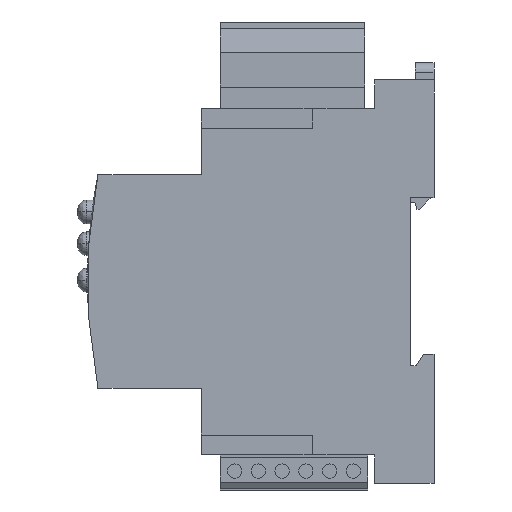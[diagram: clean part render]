
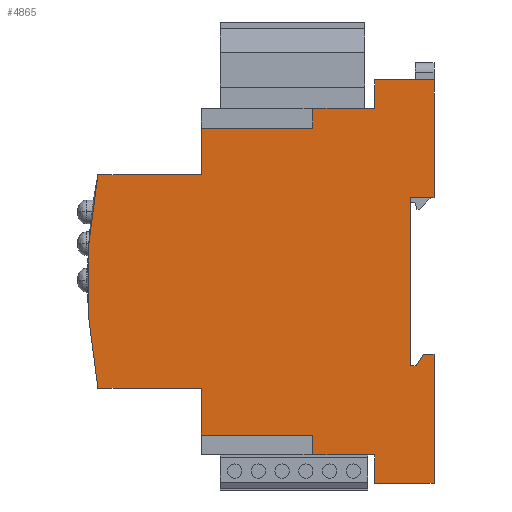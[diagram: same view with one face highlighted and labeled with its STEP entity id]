
A CAD part, left-side view. The second image highlights one B-rep face of the part: STEP entity #4865.
In plain terms, the highlighted planar face has unit normal (-1, 0, 0).
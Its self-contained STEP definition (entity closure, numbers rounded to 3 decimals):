
#1583=DIRECTION('',(0.,-1.,0.));
#1584=VECTOR('',#1583,1.252);
#1585=CARTESIAN_POINT('',(-26.25,-42.,-17.7));
#1586=LINE('',#1585,#1584);
#1591=DIRECTION('',(0.,-0.517,0.856));
#1592=VECTOR('',#1591,2.88);
#1593=CARTESIAN_POINT('',(-26.25,-43.252,-17.7));
#1594=LINE('',#1593,#1592);
#1598=DIRECTION('',(0.,-1.,0.));
#1599=VECTOR('',#1598,2.258);
#1600=CARTESIAN_POINT('',(-26.25,-44.742,-15.235));
#1601=LINE('',#1600,#1599);
#1605=DIRECTION('',(0.,1.,0.));
#1606=VECTOR('',#1605,12.5);
#1607=CARTESIAN_POINT('',(-26.25,-47.,-42.5));
#1608=LINE('',#1607,#1606);
#1612=DIRECTION('',(0.,0.,1.));
#1613=VECTOR('',#1612,6.);
#1614=CARTESIAN_POINT('',(-26.25,-34.5,-42.5));
#1615=LINE('',#1614,#1613);
#1619=DIRECTION('',(0.,1.,0.));
#1620=VECTOR('',#1619,13.035);
#1621=CARTESIAN_POINT('',(-26.25,-34.5,-36.5));
#1622=LINE('',#1621,#1620);
#1626=DIRECTION('',(0.,0.,-1.));
#1627=VECTOR('',#1626,4.2);
#1628=CARTESIAN_POINT('',(-26.25,-21.465,-32.3));
#1629=LINE('',#1628,#1627);
#1633=DIRECTION('',(0.,1.,0.));
#1634=VECTOR('',#1633,23.465);
#1635=CARTESIAN_POINT('',(-26.25,-21.465,-32.3));
#1636=LINE('',#1635,#1634);
#1640=DIRECTION('',(0.,0.,1.));
#1641=VECTOR('',#1640,9.8);
#1642=CARTESIAN_POINT('',(-26.25,2.,-32.3));
#1643=LINE('',#1642,#1641);
#1647=DIRECTION('',(0.,1.,0.));
#1648=VECTOR('',#1647,21.797);
#1649=CARTESIAN_POINT('',(-26.25,2.,-22.5));
#1650=LINE('',#1649,#1648);
#1654=CARTESIAN_POINT('',(-26.25,-90.,0.));
#1655=DIRECTION('',(1.,0.,0.));
#1656=DIRECTION('',(0.,0.981,-0.194));
#1657=AXIS2_PLACEMENT_3D('',#1654,#1655,#1656);
#1662=DIRECTION('',(0.,-1.,0.));
#1663=VECTOR('',#1662,21.797);
#1664=CARTESIAN_POINT('',(-26.25,23.797,22.5));
#1665=LINE('',#1664,#1663);
#1669=DIRECTION('',(0.,0.,1.));
#1670=VECTOR('',#1669,9.8);
#1671=CARTESIAN_POINT('',(-26.25,2.,22.5));
#1672=LINE('',#1671,#1670);
#1676=DIRECTION('',(0.,1.,0.));
#1677=VECTOR('',#1676,23.465);
#1678=CARTESIAN_POINT('',(-26.25,-21.465,32.3));
#1679=LINE('',#1678,#1677);
#1683=DIRECTION('',(0.,0.,1.));
#1684=VECTOR('',#1683,4.2);
#1685=CARTESIAN_POINT('',(-26.25,-21.465,32.3));
#1686=LINE('',#1685,#1684);
#1690=DIRECTION('',(0.,-1.,0.));
#1691=VECTOR('',#1690,13.035);
#1692=CARTESIAN_POINT('',(-26.25,-21.465,36.5));
#1693=LINE('',#1692,#1691);
#1697=DIRECTION('',(0.,0.,1.));
#1698=VECTOR('',#1697,6.);
#1699=CARTESIAN_POINT('',(-26.25,-34.5,36.5));
#1700=LINE('',#1699,#1698);
#1704=DIRECTION('',(0.,-1.,0.));
#1705=VECTOR('',#1704,12.5);
#1706=CARTESIAN_POINT('',(-26.25,-34.5,42.5));
#1707=LINE('',#1706,#1705);
#1711=DIRECTION('',(0.,0.,-1.));
#1712=VECTOR('',#1711,24.8);
#1713=CARTESIAN_POINT('',(-26.25,-47.,42.5));
#1714=LINE('',#1713,#1712);
#1718=DIRECTION('',(0.,1.,0.));
#1719=VECTOR('',#1718,5.);
#1720=CARTESIAN_POINT('',(-26.25,-47.,17.7));
#1721=LINE('',#1720,#1719);
#1725=DIRECTION('',(0.,0.,-1.));
#1726=VECTOR('',#1725,35.4);
#1727=CARTESIAN_POINT('',(-26.25,-42.,17.7));
#1728=LINE('',#1727,#1726);
#1795=DIRECTION('',(0.,0.,1.));
#1796=VECTOR('',#1795,27.265);
#1797=CARTESIAN_POINT('',(-26.25,-47.,-42.5));
#1798=LINE('',#1797,#1796);
#4338=CARTESIAN_POINT('',(-26.25,23.797,-22.5));
#4339=CARTESIAN_POINT('',(-26.25,23.797,22.5));
#4340=VERTEX_POINT('',#4338);
#4341=VERTEX_POINT('',#4339);
#4342=CARTESIAN_POINT('',(-26.25,2.,22.5));
#4343=VERTEX_POINT('',#4342);
#4344=CARTESIAN_POINT('',(-26.25,-34.5,36.5));
#4345=CARTESIAN_POINT('',(-26.25,-34.5,42.5));
#4346=VERTEX_POINT('',#4344);
#4347=VERTEX_POINT('',#4345);
#4348=CARTESIAN_POINT('',(-26.25,-47.,42.5));
#4349=VERTEX_POINT('',#4348);
#4350=CARTESIAN_POINT('',(-26.25,-47.,17.7));
#4351=VERTEX_POINT('',#4350);
#4352=CARTESIAN_POINT('',(-26.25,-42.,17.7));
#4353=VERTEX_POINT('',#4352);
#4354=CARTESIAN_POINT('',(-26.25,-42.,-17.7));
#4355=VERTEX_POINT('',#4354);
#4356=CARTESIAN_POINT('',(-26.25,-47.,-42.5));
#4357=CARTESIAN_POINT('',(-26.25,-34.5,-42.5));
#4358=VERTEX_POINT('',#4356);
#4359=VERTEX_POINT('',#4357);
#4360=CARTESIAN_POINT('',(-26.25,-34.5,-36.5));
#4361=VERTEX_POINT('',#4360);
#4362=CARTESIAN_POINT('',(-26.25,2.,-22.5));
#4363=VERTEX_POINT('',#4362);
#4390=CARTESIAN_POINT('',(-26.25,-21.465,-32.3));
#4391=CARTESIAN_POINT('',(-26.25,2.,-32.3));
#4392=VERTEX_POINT('',#4390);
#4393=VERTEX_POINT('',#4391);
#4394=CARTESIAN_POINT('',(-26.25,-21.465,-36.5));
#4395=VERTEX_POINT('',#4394);
#4404=CARTESIAN_POINT('',(-26.25,-21.465,32.3));
#4405=CARTESIAN_POINT('',(-26.25,2.,32.3));
#4406=VERTEX_POINT('',#4404);
#4407=VERTEX_POINT('',#4405);
#4408=CARTESIAN_POINT('',(-26.25,-21.465,36.5));
#4409=VERTEX_POINT('',#4408);
#4498=CARTESIAN_POINT('',(-26.25,-44.742,-15.235));
#4499=CARTESIAN_POINT('',(-26.25,-47.,-15.235));
#4500=VERTEX_POINT('',#4498);
#4501=VERTEX_POINT('',#4499);
#4506=CARTESIAN_POINT('',(-26.25,-43.252,-17.7));
#4507=VERTEX_POINT('',#4506);
#4814=CARTESIAN_POINT('',(-26.25,0.,0.));
#4815=DIRECTION('',(1.,0.,0.));
#4816=DIRECTION('',(0.,0.,-1.));
#4817=AXIS2_PLACEMENT_3D('',#4814,#4815,#4816);
#4818=PLANE('',#4817);
#4820=ORIENTED_EDGE('',*,*,#4819,.T.);
#4822=ORIENTED_EDGE('',*,*,#4821,.T.);
#4824=ORIENTED_EDGE('',*,*,#4823,.T.);
#4826=ORIENTED_EDGE('',*,*,#4825,.F.);
#4828=ORIENTED_EDGE('',*,*,#4827,.T.);
#4830=ORIENTED_EDGE('',*,*,#4829,.T.);
#4832=ORIENTED_EDGE('',*,*,#4831,.T.);
#4834=ORIENTED_EDGE('',*,*,#4833,.F.);
#4836=ORIENTED_EDGE('',*,*,#4835,.T.);
#4838=ORIENTED_EDGE('',*,*,#4837,.T.);
#4840=ORIENTED_EDGE('',*,*,#4839,.T.);
#4842=ORIENTED_EDGE('',*,*,#4841,.T.);
#4844=ORIENTED_EDGE('',*,*,#4843,.T.);
#4846=ORIENTED_EDGE('',*,*,#4845,.T.);
#4848=ORIENTED_EDGE('',*,*,#4847,.F.);
#4850=ORIENTED_EDGE('',*,*,#4849,.T.);
#4852=ORIENTED_EDGE('',*,*,#4851,.T.);
#4854=ORIENTED_EDGE('',*,*,#4853,.T.);
#4856=ORIENTED_EDGE('',*,*,#4855,.T.);
#4858=ORIENTED_EDGE('',*,*,#4857,.T.);
#4860=ORIENTED_EDGE('',*,*,#4859,.T.);
#4862=ORIENTED_EDGE('',*,*,#4861,.T.);
#4863=EDGE_LOOP('',(#4820,#4822,#4824,#4826,#4828,#4830,#4832,#4834,#4836,#4838,
#4840,#4842,#4844,#4846,#4848,#4850,#4852,#4854,#4856,#4858,#4860,#4862));
#4864=FACE_OUTER_BOUND('',#4863,.F.);
#1658=CIRCLE('',#1657,116.);
#4819=EDGE_CURVE('',#4355,#4507,#1586,.T.);
#4821=EDGE_CURVE('',#4507,#4500,#1594,.T.);
#4823=EDGE_CURVE('',#4500,#4501,#1601,.T.);
#4825=EDGE_CURVE('',#4358,#4501,#1798,.T.);
#4827=EDGE_CURVE('',#4358,#4359,#1608,.T.);
#4829=EDGE_CURVE('',#4359,#4361,#1615,.T.);
#4831=EDGE_CURVE('',#4361,#4395,#1622,.T.);
#4833=EDGE_CURVE('',#4392,#4395,#1629,.T.);
#4835=EDGE_CURVE('',#4392,#4393,#1636,.T.);
#4837=EDGE_CURVE('',#4393,#4363,#1643,.T.);
#4839=EDGE_CURVE('',#4363,#4340,#1650,.T.);
#4841=EDGE_CURVE('',#4340,#4341,#1658,.T.);
#4843=EDGE_CURVE('',#4341,#4343,#1665,.T.);
#4845=EDGE_CURVE('',#4343,#4407,#1672,.T.);
#4847=EDGE_CURVE('',#4406,#4407,#1679,.T.);
#4849=EDGE_CURVE('',#4406,#4409,#1686,.T.);
#4851=EDGE_CURVE('',#4409,#4346,#1693,.T.);
#4853=EDGE_CURVE('',#4346,#4347,#1700,.T.);
#4855=EDGE_CURVE('',#4347,#4349,#1707,.T.);
#4857=EDGE_CURVE('',#4349,#4351,#1714,.T.);
#4859=EDGE_CURVE('',#4351,#4353,#1721,.T.);
#4861=EDGE_CURVE('',#4353,#4355,#1728,.T.);
#4865=ADVANCED_FACE('',(#4864),#4818,.F.);
